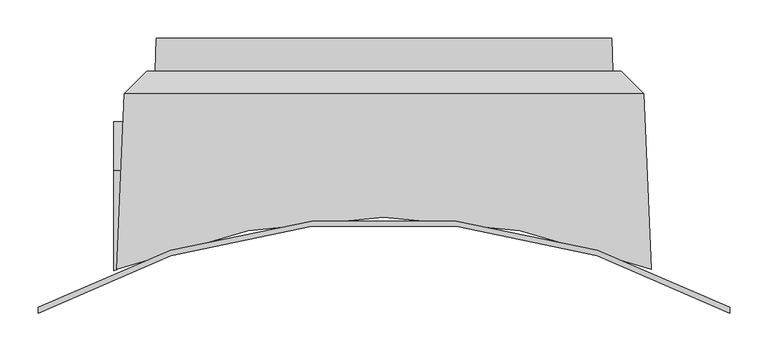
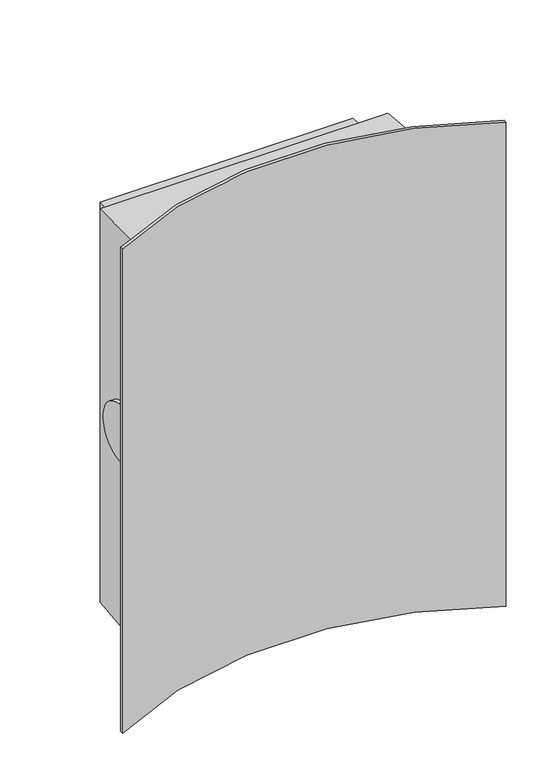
"""IFC4 building model written with IfcOpenShell, lengths in millimetres: proxy geometry, SU.MRADAPTOR.1850.600Lx900W."""

from ifc_helpers import new_model, si_unit, frame, origin, place, context, project, spatial, polyline, circle_curve, ellipse_curve, source, transform, mapped, element, save
from ifc_brep_helpers import plane_surface, cylinder_surface, revolved_surface, advanced_brep


def generic_models_cbd79aaf(model_context):
    return source(origin(), model_context, "Body", "AdvancedBrep", [
        advanced_brep(
        [(296.4984069, 250.0, -446.4984069), (-296.4984069, 250.0, -446.4984069), (-296.4984069, 250.0, 446.4984069), (296.4984069, 250.0, 446.4984069), (298.0, 207.0, -448.0), (-298.0, 207.0, -448.0), (-298.0, 207.0, 448.0), (298.0, 207.0, 448.0), (-450.0, -99.8385062, 600.0), (450.0, -99.8385062, 600.0), (450.0, -99.8385062, -600.0), (-450.0, -99.8385062, -600.0), (-347.7562357, -50.8590545, -80.0415625), (-347.7562357, -50.8590545, -497.7562357), (347.7562357, -50.8590545, -497.7562357), (347.7562357, -50.8590545, 497.7562357), (-347.7562357, -50.8590545, 497.7562357), (-347.7562357, -50.8590545, 80.0415625), (-352.0, -52.5930793, 80.1802845), (-352.0, -52.5930793, -80.1802845), (-338.1192031, 178.0204704, -488.1192031), (338.1192031, 178.0204704, -488.1192031), (-342.353871, 77.447108, -69.7770695), (-342.353871, 77.447108, 69.7770695), (-338.1192031, 178.0204704, 488.1192031), (-309.1396735, 207.0, -459.1396735), (309.1396735, 207.0, -459.1396735), (338.1192031, 178.0204704, 488.1192031), (-309.1396735, 207.0, 459.1396735), (309.1396735, 207.0, 459.1396735), (-352.0, 77.447108, 69.7770695), (-450.0, -107.8600122, -600.0), (-450.0, -107.8600122, 600.0), (450.0, -107.8600122, -600.0), (450.0, -107.8600122, 600.0), (-352.0, 77.447108, -69.7770695)],
        [
            (0, 1),
            (1, 2),
            (2, 3),
            (3, 0),
            (0, 4),
            (4, 5),
            (5, 1),
            (5, 6),
            (6, 2),
            (3, 7),
            (7, 4),
            (6, 7),
            (8, 9, circle_curve(frame((0.0, -908.0, 600.0), z_axis=(0.0, 0.0, -1.0), x_axis=(0.48648648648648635, 0.8736881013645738, 0.0)), 925.0)),
            (9, 10),
            (10, 11, circle_curve(frame((0.0, -908.0, -600.0), z_axis=(0.0, 0.0, 1.0), x_axis=(0.48648648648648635, 0.8736881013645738, 0.0)), 925.0)),
            (11, 8),
            (12, 13),
            (13, 14, ellipse_curve(frame((0.0, -908.0, -533.8463808), z_axis=(0.0, 0.04206798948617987, -0.9991147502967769), x_axis=(0.0, 0.9991147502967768, 0.042067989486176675)), 925.8195815, 925.0)),
            (14, 15),
            (15, 16, ellipse_curve(frame((0.0, -908.0, 533.8463808), z_axis=(0.0, 0.04206798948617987, 0.9991147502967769), x_axis=(0.0, -0.9991147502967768, 0.042067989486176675)), 925.8195815, 925.0)),
            (16, 17),
            (17, 18, ellipse_curve(frame((0.0, -908.0, 148.6128381), z_axis=(0.0, 0.07974522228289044, 0.9968152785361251), x_axis=(0.0, -0.9968152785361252, 0.07974522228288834)), 927.9552791, 925.0)),
            (18, 19),
            (19, 12, ellipse_curve(frame((0.0, -908.0, -148.6128381), z_axis=(0.0, 0.0797452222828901, -0.9968152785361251), x_axis=(0.0, 0.9968152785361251, 0.07974522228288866)), 927.9552791, 925.0)),
            (13, 20),
            (20, 21),
            (21, 14),
            (12, 22),
            (22, 23, ellipse_curve(frame((-342.5889096, 71.8649424, 0.0), z_axis=(0.9991147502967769, -0.04206798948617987, 0.0), x_axis=(-0.042067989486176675, -0.9991147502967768, 0.0)), 70.0620224, 70.0)),
            (23, 17),
            (16, 24),
            (24, 20),
            (20, 25),
            (25, 26),
            (26, 21),
            (15, 27),
            (27, 24),
            (24, 28),
            (28, 25),
            (27, 21),
            (26, 29),
            (29, 27),
            (29, 28),
            (23, 30),
            (30, 18),
            (11, 31),
            (31, 32),
            (32, 8),
            (31, 33, circle_curve(frame((0.0, -908.0, -600.0), z_axis=(0.0, 0.0, -1.0), x_axis=(-0.49019607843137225, -0.8716121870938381, 0.0)), 918.0)),
            (33, 34),
            (34, 32, circle_curve(frame((0.0, -908.0, 600.0), z_axis=(0.0, 0.0, 1.0), x_axis=(-0.49019607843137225, -0.8716121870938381, 0.0)), 918.0)),
            (9, 34),
            (33, 10),
            (35, 19),
            (30, 35, circle_curve(frame((-352.0, 71.8649424, 0.0), z_axis=(-1.0, 0.0, 0.0), x_axis=(0.0, 0.07974522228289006, -0.996815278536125)), 70.0)),
            (22, 35),
        ],
        [
            plane_surface(frame((248.0, 250.0, -446.4984069), z_axis=(0.0, 1.0, 0.0), x_axis=(0.0, 0.0, 1.0))),
            plane_surface(frame((-248.0, 207.0, -448.0), z_axis=(0.0, 0.03489949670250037, -0.9993908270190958), x_axis=(0.0, 0.9993908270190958, 0.03489949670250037))),
            plane_surface(frame((-298.0, 207.0, 398.0), z_axis=(-0.9993908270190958, 0.03489949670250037, 0.0), x_axis=(0.03489949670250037, 0.9993908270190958, 0.0))),
            plane_surface(frame((298.0, 207.0, -398.0), z_axis=(0.9993908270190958, 0.03489949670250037, 0.0), x_axis=(-0.03489949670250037, 0.9993908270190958, 0.0))),
            plane_surface(frame((248.0, 207.0, 448.0), z_axis=(0.0, 0.03489949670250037, 0.9993908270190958), x_axis=(0.0, 0.9993908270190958, -0.03489949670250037))),
            cylinder_surface(frame((0.0, -908.0, 0.0), z_axis=(0.0, 0.0, 1.0), x_axis=(0.48648648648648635, 0.8736881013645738, 0.0)), 925.0),
            plane_surface(frame((-248.0, -299.4172684, -508.2218447), z_axis=(0.0, 0.04206798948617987, -0.9991147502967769), x_axis=(0.0, 0.9991147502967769, 0.04206798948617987))),
            plane_surface(frame((-358.2218447, -299.4172684, 398.0), z_axis=(-0.9991147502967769, 0.04206798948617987, 0.0), x_axis=(0.04206798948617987, 0.9991147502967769, 0.0))),
            plane_surface(frame((-248.0, 178.0204704, -488.1192031), z_axis=(0.0, 0.7071067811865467, -0.7071067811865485), x_axis=(0.0, 0.7071067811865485, 0.7071067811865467))),
            plane_surface(frame((248.0, -299.4172684, 508.2218447), z_axis=(0.0, 0.04206798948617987, 0.9991147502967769), x_axis=(0.0, 0.9991147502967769, -0.04206798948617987))),
            plane_surface(frame((-338.1192031, 178.0204704, 398.0), z_axis=(-0.7071067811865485, 0.7071067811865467, 0.0), x_axis=(0.7071067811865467, 0.7071067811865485, 0.0))),
            plane_surface(frame((338.1192031, 178.0204704, -398.0), z_axis=(0.7071067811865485, 0.7071067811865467, 0.0), x_axis=(-0.7071067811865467, 0.7071067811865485, 0.0))),
            plane_surface(frame((358.2218447, -299.4172684, -398.0), z_axis=(0.9991147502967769, 0.04206798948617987, 0.0), x_axis=(-0.04206798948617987, 0.9991147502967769, 0.0))),
            plane_surface(frame((248.0, 178.0204704, 488.1192031), z_axis=(0.0, 0.7071067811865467, 0.7071067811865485), x_axis=(0.0, 0.7071067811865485, -0.7071067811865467))),
            plane_surface(frame((248.0, 207.0, -459.1396735), z_axis=(0.0, 1.0, 0.0), x_axis=(0.0, 0.0, 1.0))),
            plane_surface(frame((0.0, -169.1602084, 89.5056548), z_axis=(0.0, 0.07974522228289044, 0.9968152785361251), x_axis=(0.0, 0.9968152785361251, -0.07974522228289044))),
            plane_surface(frame((-450.0, -99.8385062, 0.0), z_axis=(-1.0, 0.0, 0.0), x_axis=(0.0, -1.0, 0.0))),
            revolved_surface(polyline([(-449.9999999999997, -1708.1399877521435, 600.0), (-449.9999999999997, -1708.1399877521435, -600.0)]), (0.0, -908.0, 0.0), (0.0, 0.0, 1.0)),
            plane_surface(frame((450.0, -107.8600122, 0.0), z_axis=(1.0, 0.0, 0.0), x_axis=(0.0, 1.0, 0.0))),
            plane_surface(frame((-352.0, -13.647633, 0.0), z_axis=(-1.0, 0.0, 0.0), x_axis=(0.0, 0.0, -1.0))),
            cylinder_surface(frame((0.0, 71.8649424, 0.0), z_axis=(-0.9999999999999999, 0.0, 0.0), x_axis=(0.0, 0.07974522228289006, -0.996815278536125)), 70.0),
            plane_surface(frame((0.0, -45.4300061, 600.0), z_axis=(0.0, 0.0, 1.0), x_axis=(1.0, 0.0, 0.0))),
            plane_surface(frame((0.0, -45.4300061, -600.0), z_axis=(0.0, 0.0, -1.0), x_axis=(1.0, 0.0, 0.0))),
            plane_surface(frame((0.0, 77.447108, -69.7770695), z_axis=(0.0, 0.0797452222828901, -0.9968152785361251), x_axis=(0.0, -0.9968152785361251, -0.0797452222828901))),
        ],
        [
            (0, [[1, 2, 3, 4]]),
            (1, [[-1, 5, 6, 7]]),
            (2, [[-7, 8, 9, -2]]),
            (3, [[-4, 10, 11, -5]]),
            (4, [[-3, -9, 12, -10]]),
            (5, [[13, 14, 15, 16], [17, 18, 19, 20, 21, 22, 23, 24]]),
            (6, [[25, 26, 27, -18]]),
            (7, [[-17, 28, 29, 30, -21, 31, 32, -25]]),
            (8, [[-26, 33, 34, 35]]),
            (9, [[-20, 36, 37, -31]]),
            (10, [[-32, 38, 39, -33]]),
            (11, [[40, -35, 41, 42]]),
            (12, [[-27, -40, -36, -19]]),
            (13, [[-37, -42, 43, -38]]),
            (14, [[-34, -39, -43, -41], [-6, -11, -12, -8]]),
            (15, [[-30, 44, 45, -22]]),
            (16, [[-16, 46, 47, 48]]),
            (17, [[-47, 49, 50, 51]]),
            (18, [[-14, 52, -50, 53]]),
            (19, [[54, -23, -45, 55]]),
            (20, [[-55, -44, -29, 56]]),
            (21, [[-48, -51, -52, -13]]),
            (22, [[-46, -15, -53, -49]]),
            (23, [[-28, -24, -54, -56]]),
        ],
    ),
    ])


if __name__ == "__main__":
    model = new_model("IFC4")
    model_context = context("Model", 3, world=origin())
    ifc_project = project(units=[si_unit("LENGTHUNIT", "METRE", prefix="MILLI")], contexts=[model_context])
    site = spatial("IfcSite", under=ifc_project)
    building = spatial("IfcBuilding", under=site)
    placement = place(None, origin())
    generic_models_shape = generic_models_cbd79aaf(model_context)
    element("IfcBuildingElementProxy", 1, Name="SU.MRADAPTOR.1850.600Lx900W", ObjectType="SU.MRADAPTOR.1850.600Lx900W", at=placement, inside=building, context=model_context, shape_type="MappedRepresentation", body=[
        mapped(generic_models_shape, transform((0.0, 0.0, 0.0), x_axis=(1.0, 0.0, 0.0), y_axis=(0.0, 1.0, 0.0), z_axis=(0.0, 0.0, 1.0))),
    ])
    save(model, "model.ifc")
